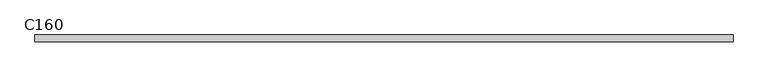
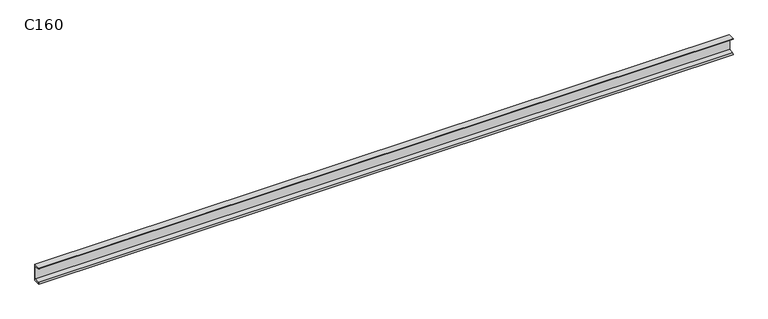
"""IFC4 building model written with IfcOpenShell, lengths in millimetres: beam geometry, RPLN C - Ceowniki normalne : C160."""

from ifc_helpers import new_model, si_unit, point, frame, frame_2d, origin, place, context, project, spatial, polyline, circle_curve, trimmed, segment, composite_curve, outline, extrude, source, transform, mapped, element, save


def c160_e21037ba(model_context):
    return source(origin(), model_context, "Body", "SweptSolid", [
        extrude(outline(composite_curve([segment(polyline([(18.4, 80.0), (18.4, -80.0), (-46.6, -80.0)]), True, "CONTINUOUS"), segment(trimmed(circle_curve(frame_2d((-36.1, -80.0)), 10.5), [point((-46.6, -80.0))], [point((-36.1, -69.5))], False, "CARTESIAN"), True, "CONTINUOUS"), segment(polyline([(-36.1, -69.5), (10.9, -62.0559313), (10.9, 62.0559313), (-36.1, 69.5)]), True, "CONTINUOUS"), segment(trimmed(circle_curve(frame_2d((-36.1, 80.0)), 10.5), [point((-36.1, 69.5))], [point((-46.6, 80.0))], False, "CARTESIAN"), True, "CONTINUOUS"), segment(polyline([(-46.6, 80.0), (18.4, 80.0)]), True, "CONTINUOUS")], self_intersect=False)), frame((-3333.84533, 0.0, 0.0), z_axis=(1.0, 0.0, 0.0), x_axis=(0.0, 1.0, 0.0)), (0.0, 0.0, 1.0), 6629.1665092),
    ])


if __name__ == "__main__":
    model = new_model("IFC4")
    model_context = context("Model", 3, world=origin())
    ifc_project = project(units=[si_unit("LENGTHUNIT", "METRE", prefix="MILLI")], contexts=[model_context])
    site = spatial("IfcSite", under=ifc_project)
    building = spatial("IfcBuilding", under=site)
    placement = place(None, origin())
    c160_shape = c160_e21037ba(model_context)
    element("IfcBeam", 1, ObjectType="RPLN C - Ceowniki normalne : C160", at=placement, inside=building, context=model_context, shape_type="MappedRepresentation", body=[
        mapped(c160_shape, transform((0.0, 0.0, 0.0), x_axis=(1.0, 0.0, 0.0), y_axis=(0.0, 1.0, 0.0), z_axis=(0.0, 0.0, 1.0))),
    ])
    save(model, "model.ifc")
